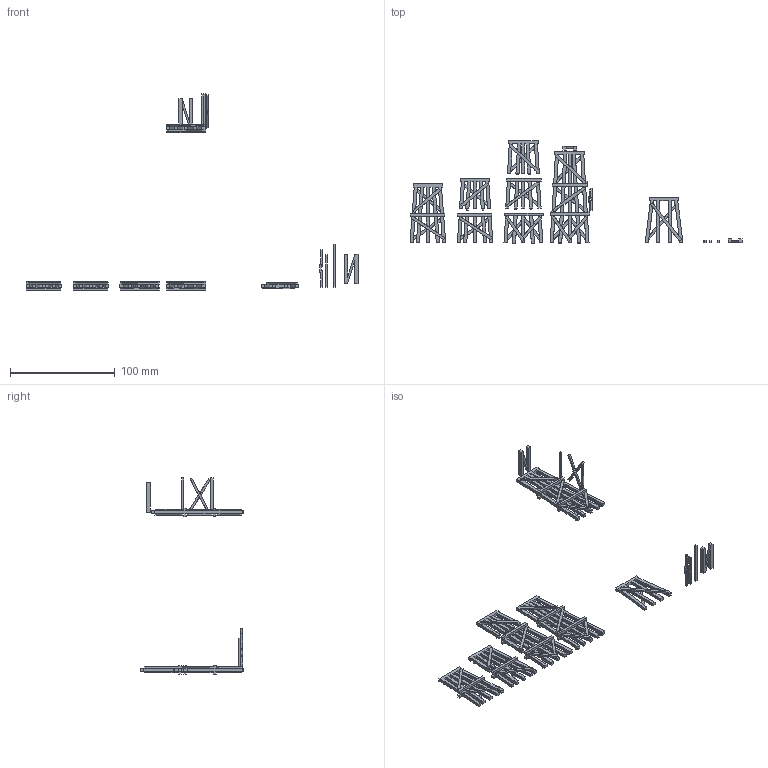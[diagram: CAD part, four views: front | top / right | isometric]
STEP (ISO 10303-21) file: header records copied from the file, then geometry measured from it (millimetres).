
FILE_DESCRIPTION(/* description */ (''),/* implementation_level */ '2;1');
FILE_NAME(/* name */ 'TrestlesAllAndCrossPieces.step',/* time_stamp */ '2025-11-28T10:15:22-08:00',/* author */ (''),/* organization */ (''),/* preprocessor_version */ 'ST-DEVELOPER v20.1',/* originating_system */ 'Autodesk Translation Framework v14.21.0.0',/* authorisation */ '');
FILE_SCHEMA (('AUTOMOTIVE_DESIGN { 1 0 10303 214 3 1 1 }'));
Length unit declared in the file: millimetre
Products named in the file (1): TrestlesAllAndCrossPieces
Bounding box: 316.22 x 97.5 x 186.73 mm (x, y, z)
Volume: 28902.3 mm3; surface area: 41267.1 mm2
Topology: 19 solids, 19 shells, 958 faces, 2948 edges, 1728 vertices
Faces by surface type: plane 946, cylinder 12
Full cylindrical faces by diameter (mm): 1.5 x6
Entity records: 31923 total; most frequent: ORIENTED_EDGE 5896, CARTESIAN_POINT 5635, DIRECTION 4890, EDGE_CURVE 2948, LINE 2924, VECTOR 2924, VERTEX_POINT 1728, AXIS2_PLACEMENT_3D 983
